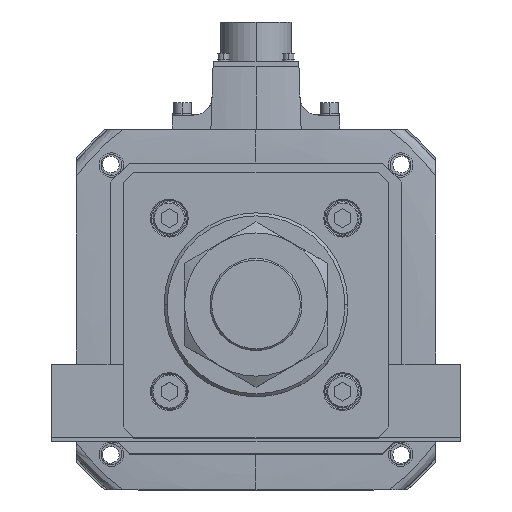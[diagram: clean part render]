
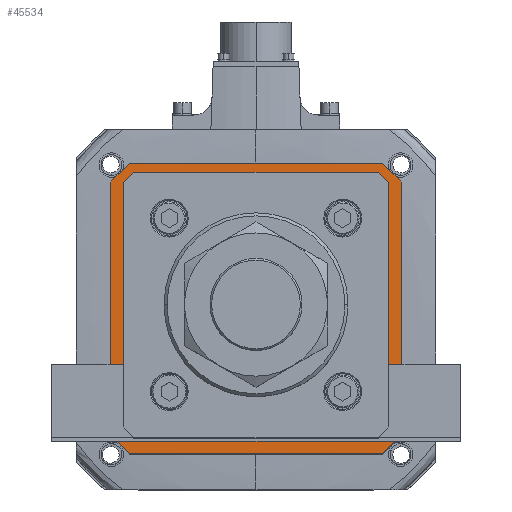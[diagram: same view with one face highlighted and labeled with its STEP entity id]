
A CAD part, top view. The second image highlights one B-rep face of the part: STEP entity #45534.
In plain terms, the highlighted planar face has unit normal (0, 0, 1).
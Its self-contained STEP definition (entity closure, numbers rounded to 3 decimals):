
#481 = CARTESIAN_POINT ( 'NONE',  ( -63., 58.793, -142. ) ) ;
#1275 = ORIENTED_EDGE ( 'NONE', *, *, #15109, .F. ) ;
#1306 = DIRECTION ( 'NONE',  ( 0., 1., 0. ) ) ;
#1506 = CARTESIAN_POINT ( 'NONE',  ( 0., -63., -142. ) ) ;
#2827 = CARTESIAN_POINT ( 'NONE',  ( 62., 71., -142. ) ) ;
#2956 = ORIENTED_EDGE ( 'NONE', *, *, #3682, .T. ) ;
#3014 = VECTOR ( 'NONE', #18931, 1000. ) ;
#3521 = CARTESIAN_POINT ( 'NONE',  ( 60.896, -60.896, -142. ) ) ;
#3682 = EDGE_CURVE ( 'NONE', #28383, #22683, #6056, .T. ) ;
#4290 = VECTOR ( 'NONE', #8412, 1000. ) ;
#5615 = EDGE_CURVE ( 'NONE', #6667, #39162, #51301, .T. ) ;
#6056 = LINE ( 'NONE', #49957, #32795 ) ;
#6667 = VERTEX_POINT ( 'NONE', #43271 ) ;
#6729 = CARTESIAN_POINT ( 'NONE',  ( -62., 71., -142. ) ) ;
#7441 = EDGE_CURVE ( 'NONE', #21980, #12667, #16391, .T. ) ;
#7612 = DIRECTION ( 'NONE',  ( -0.707, -0.707, 0. ) ) ;
#8053 = LINE ( 'NONE', #22508, #28090 ) ;
#8323 = EDGE_CURVE ( 'NONE', #12667, #38329, #47102, .T. ) ;
#8412 = DIRECTION ( 'NONE',  ( 0.707, 0.707, 0. ) ) ;
#8590 = ORIENTED_EDGE ( 'NONE', *, *, #31676, .F. ) ;
#9681 = CARTESIAN_POINT ( 'NONE',  ( -58.793, 63., -142. ) ) ;
#10225 = EDGE_CURVE ( 'NONE', #26012, #30625, #50988, .T. ) ;
#10807 = EDGE_CURVE ( 'NONE', #22683, #52719, #54120, .T. ) ;
#10849 = ORIENTED_EDGE ( 'NONE', *, *, #7441, .T. ) ;
#10964 = EDGE_LOOP ( 'NONE', ( #23008, #47997, #1275, #34712, #25320, #48122, #8590, #38936 ) ) ;
#11160 = CARTESIAN_POINT ( 'NONE',  ( 63., -58.793, -142. ) ) ;
#11420 = VECTOR ( 'NONE', #39559, 1000. ) ;
#12451 = VERTEX_POINT ( 'NONE', #12601 ) ;
#12601 = CARTESIAN_POINT ( 'NONE',  ( -58.793, -63., -142. ) ) ;
#12667 = VERTEX_POINT ( 'NONE', #481 ) ;
#12841 = CARTESIAN_POINT ( 'NONE',  ( -63., -58.793, -142. ) ) ;
#13271 = CARTESIAN_POINT ( 'NONE',  ( -60.896, 60.896, -142. ) ) ;
#13509 = CARTESIAN_POINT ( 'NONE',  ( -62., -71., -142. ) ) ;
#14509 = ORIENTED_EDGE ( 'NONE', *, *, #52633, .T. ) ;
#14635 = CARTESIAN_POINT ( 'NONE',  ( -62., 71., -142. ) ) ;
#14902 = VERTEX_POINT ( 'NONE', #42520 ) ;
#15053 = ORIENTED_EDGE ( 'NONE', *, *, #8323, .T. ) ;
#15109 = EDGE_CURVE ( 'NONE', #33469, #32985, #34386, .T. ) ;
#15185 = VECTOR ( 'NONE', #25486, 1000. ) ;
#15527 = CARTESIAN_POINT ( 'NONE',  ( -71., 62., -142. ) ) ;
#16391 = LINE ( 'NONE', #52754, #3014 ) ;
#16514 = PLANE ( 'NONE',  #35284 ) ;
#17051 = ORIENTED_EDGE ( 'NONE', *, *, #41467, .T. ) ;
#17066 = CARTESIAN_POINT ( 'NONE',  ( 71., 62., -142. ) ) ;
#17224 = EDGE_CURVE ( 'NONE', #32985, #26012, #48911, .T. ) ;
#17656 = VECTOR ( 'NONE', #41108, 1000. ) ;
#17836 = ORIENTED_EDGE ( 'NONE', *, *, #21789, .T. ) ;
#18783 = DIRECTION ( 'NONE',  ( -0.707, -0.707, 0. ) ) ;
#18931 = DIRECTION ( 'NONE',  ( 0., 1., 0. ) ) ;
#19035 = CARTESIAN_POINT ( 'NONE',  ( 62., 71., -142. ) ) ;
#19515 = LINE ( 'NONE', #37368, #28209 ) ;
#21789 = EDGE_CURVE ( 'NONE', #52719, #50142, #22766, .T. ) ;
#21980 = VERTEX_POINT ( 'NONE', #12841 ) ;
#22193 = VECTOR ( 'NONE', #24429, 1000. ) ;
#22208 = EDGE_CURVE ( 'NONE', #30366, #6667, #8053, .T. ) ;
#22508 = CARTESIAN_POINT ( 'NONE',  ( 71., -62., -142. ) ) ;
#22683 = VERTEX_POINT ( 'NONE', #39080 ) ;
#22760 = LINE ( 'NONE', #1506, #11420 ) ;
#22766 = LINE ( 'NONE', #3521, #46841 ) ;
#22991 = LINE ( 'NONE', #36808, #17656 ) ;
#23008 = ORIENTED_EDGE ( 'NONE', *, *, #10225, .F. ) ;
#23622 = ORIENTED_EDGE ( 'NONE', *, *, #10807, .T. ) ;
#24429 = DIRECTION ( 'NONE',  ( 1., 0., 0. ) ) ;
#25073 = DIRECTION ( 'NONE',  ( 0., 0., 1. ) ) ;
#25259 = VECTOR ( 'NONE', #55135, 1000. ) ;
#25279 = FACE_OUTER_BOUND ( 'NONE', #10964, .T. ) ;
#25320 = ORIENTED_EDGE ( 'NONE', *, *, #5615, .F. ) ;
#25486 = DIRECTION ( 'NONE',  ( -1., 0., 0. ) ) ;
#26012 = VERTEX_POINT ( 'NONE', #6729 ) ;
#27300 = EDGE_CURVE ( 'NONE', #30625, #14902, #22991, .T. ) ;
#27402 = CARTESIAN_POINT ( 'NONE',  ( 0., 63., -142. ) ) ;
#28090 = VECTOR ( 'NONE', #18783, 1000. ) ;
#28209 = VECTOR ( 'NONE', #29334, 1000. ) ;
#28383 = VERTEX_POINT ( 'NONE', #36146 ) ;
#28631 = DIRECTION ( 'NONE',  ( 0.707, -0.707, 0. ) ) ;
#28809 = EDGE_CURVE ( 'NONE', #12451, #21980, #19515, .T. ) ;
#29334 = DIRECTION ( 'NONE',  ( -0.707, 0.707, 0. ) ) ;
#29452 = VECTOR ( 'NONE', #52612, 1000. ) ;
#30366 = VERTEX_POINT ( 'NONE', #37567 ) ;
#30625 = VERTEX_POINT ( 'NONE', #19035 ) ;
#30959 = CARTESIAN_POINT ( 'NONE',  ( -71., 62., -142. ) ) ;
#31676 = EDGE_CURVE ( 'NONE', #14902, #30366, #41279, .T. ) ;
#32795 = VECTOR ( 'NONE', #28631, 1000. ) ;
#32985 = VERTEX_POINT ( 'NONE', #15527 ) ;
#33469 = VERTEX_POINT ( 'NONE', #44242 ) ;
#33923 = CARTESIAN_POINT ( 'NONE',  ( 62., -71., -142. ) ) ;
#34386 = LINE ( 'NONE', #30959, #37039 ) ;
#34712 = ORIENTED_EDGE ( 'NONE', *, *, #46818, .F. ) ;
#35284 = AXIS2_PLACEMENT_3D ( 'NONE', #37978, #25073, #42424 ) ;
#35510 = VECTOR ( 'NONE', #37574, 1000. ) ;
#36146 = CARTESIAN_POINT ( 'NONE',  ( 58.793, 63., -142. ) ) ;
#36808 = CARTESIAN_POINT ( 'NONE',  ( 71., 62., -142. ) ) ;
#37039 = VECTOR ( 'NONE', #1306, 1000. ) ;
#37368 = CARTESIAN_POINT ( 'NONE',  ( -60.896, -60.896, -142. ) ) ;
#37567 = CARTESIAN_POINT ( 'NONE',  ( 71., -62., -142. ) ) ;
#37574 = DIRECTION ( 'NONE',  ( 0.707, 0.707, 0. ) ) ;
#37978 = CARTESIAN_POINT ( 'NONE',  ( 0., 0., -142. ) ) ;
#38192 = CARTESIAN_POINT ( 'NONE',  ( 63., 0., -142. ) ) ;
#38329 = VERTEX_POINT ( 'NONE', #9681 ) ;
#38626 = FACE_BOUND ( 'NONE', #39909, .T. ) ;
#38936 = ORIENTED_EDGE ( 'NONE', *, *, #27300, .F. ) ;
#39080 = CARTESIAN_POINT ( 'NONE',  ( 63., 58.793, -142. ) ) ;
#39162 = VERTEX_POINT ( 'NONE', #13509 ) ;
#39559 = DIRECTION ( 'NONE',  ( -1., 0., 0. ) ) ;
#39909 = EDGE_LOOP ( 'NONE', ( #23622, #17836, #14509, #53854, #10849, #15053, #17051, #2956 ) ) ;
#40089 = VECTOR ( 'NONE', #55181, 1000. ) ;
#40615 = LINE ( 'NONE', #49780, #55300 ) ;
#41108 = DIRECTION ( 'NONE',  ( 0.707, -0.707, 0. ) ) ;
#41279 = LINE ( 'NONE', #17066, #25259 ) ;
#41467 = EDGE_CURVE ( 'NONE', #38329, #28383, #50872, .T. ) ;
#42424 = DIRECTION ( 'NONE',  ( 1., 0., 0. ) ) ;
#42520 = CARTESIAN_POINT ( 'NONE',  ( 71., 62., -142. ) ) ;
#43271 = CARTESIAN_POINT ( 'NONE',  ( 62., -71., -142. ) ) ;
#44242 = CARTESIAN_POINT ( 'NONE',  ( -71., -62., -142. ) ) ;
#45534 = ADVANCED_FACE ( 'NONE', ( #38626, #25279 ), #16514, .T. ) ;
#46818 = EDGE_CURVE ( 'NONE', #39162, #33469, #40615, .T. ) ;
#46841 = VECTOR ( 'NONE', #7612, 1000. ) ;
#47102 = LINE ( 'NONE', #13271, #4290 ) ;
#47782 = CARTESIAN_POINT ( 'NONE',  ( 58.793, -63., -142. ) ) ;
#47997 = ORIENTED_EDGE ( 'NONE', *, *, #17224, .F. ) ;
#48122 = ORIENTED_EDGE ( 'NONE', *, *, #22208, .F. ) ;
#48911 = LINE ( 'NONE', #14635, #35510 ) ;
#49780 = CARTESIAN_POINT ( 'NONE',  ( -62., -71., -142. ) ) ;
#49957 = CARTESIAN_POINT ( 'NONE',  ( 60.896, 60.896, -142. ) ) ;
#50142 = VERTEX_POINT ( 'NONE', #47782 ) ;
#50872 = LINE ( 'NONE', #27402, #29452 ) ;
#50988 = LINE ( 'NONE', #2827, #22193 ) ;
#51301 = LINE ( 'NONE', #33923, #15185 ) ;
#52612 = DIRECTION ( 'NONE',  ( 1., 0., 0. ) ) ;
#52633 = EDGE_CURVE ( 'NONE', #50142, #12451, #22760, .T. ) ;
#52719 = VERTEX_POINT ( 'NONE', #11160 ) ;
#52754 = CARTESIAN_POINT ( 'NONE',  ( -63., 0., -142. ) ) ;
#53854 = ORIENTED_EDGE ( 'NONE', *, *, #28809, .T. ) ;
#53878 = DIRECTION ( 'NONE',  ( -0.707, 0.707, 0. ) ) ;
#54120 = LINE ( 'NONE', #38192, #40089 ) ;
#55135 = DIRECTION ( 'NONE',  ( 0., -1., 0. ) ) ;
#55181 = DIRECTION ( 'NONE',  ( 0., -1., 0. ) ) ;
#55300 = VECTOR ( 'NONE', #53878, 1000. ) ;
